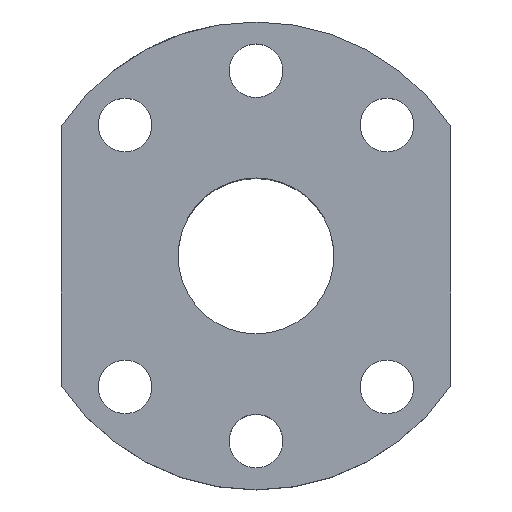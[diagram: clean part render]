
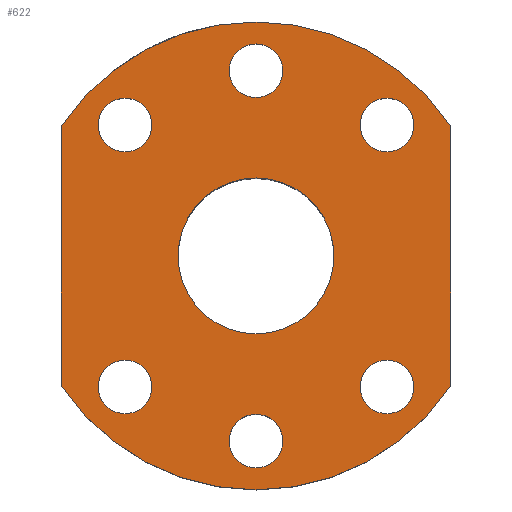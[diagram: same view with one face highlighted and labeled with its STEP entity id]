
A CAD part, top view. The second image highlights one B-rep face of the part: STEP entity #622.
In plain terms, the highlighted planar face has unit normal (0, 0, 1).
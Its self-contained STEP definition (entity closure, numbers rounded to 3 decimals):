
#97=CARTESIAN_POINT('',(-13.435,13.435,10.));
#98=DIRECTION('',(0.,0.,-1.));
#99=DIRECTION('',(1.,0.,0.));
#100=AXIS2_PLACEMENT_3D('',#97,#98,#99);
#102=CARTESIAN_POINT('',(-13.435,13.435,10.));
#103=DIRECTION('',(0.,0.,-1.));
#104=DIRECTION('',(-1.,0.,0.));
#105=AXIS2_PLACEMENT_3D('',#102,#103,#104);
#107=CARTESIAN_POINT('',(0.,19.,10.));
#108=DIRECTION('',(0.,0.,-1.));
#109=DIRECTION('',(1.,0.,0.));
#110=AXIS2_PLACEMENT_3D('',#107,#108,#109);
#112=CARTESIAN_POINT('',(0.,19.,10.));
#113=DIRECTION('',(0.,0.,-1.));
#114=DIRECTION('',(-1.,0.,0.));
#115=AXIS2_PLACEMENT_3D('',#112,#113,#114);
#117=CARTESIAN_POINT('',(13.435,13.435,10.));
#118=DIRECTION('',(0.,0.,-1.));
#119=DIRECTION('',(1.,0.,0.));
#120=AXIS2_PLACEMENT_3D('',#117,#118,#119);
#122=CARTESIAN_POINT('',(13.435,13.435,10.));
#123=DIRECTION('',(0.,0.,-1.));
#124=DIRECTION('',(-1.,0.,0.));
#125=AXIS2_PLACEMENT_3D('',#122,#123,#124);
#127=CARTESIAN_POINT('',(-13.435,-13.435,10.));
#128=DIRECTION('',(0.,0.,-1.));
#129=DIRECTION('',(1.,0.,0.));
#130=AXIS2_PLACEMENT_3D('',#127,#128,#129);
#132=CARTESIAN_POINT('',(-13.435,-13.435,10.));
#133=DIRECTION('',(0.,0.,-1.));
#134=DIRECTION('',(-1.,0.,0.));
#135=AXIS2_PLACEMENT_3D('',#132,#133,#134);
#137=CARTESIAN_POINT('',(0.,-19.,10.));
#138=DIRECTION('',(0.,0.,-1.));
#139=DIRECTION('',(1.,0.,0.));
#140=AXIS2_PLACEMENT_3D('',#137,#138,#139);
#142=CARTESIAN_POINT('',(0.,-19.,10.));
#143=DIRECTION('',(0.,0.,-1.));
#144=DIRECTION('',(-1.,0.,0.));
#145=AXIS2_PLACEMENT_3D('',#142,#143,#144);
#147=CARTESIAN_POINT('',(13.435,-13.435,10.));
#148=DIRECTION('',(0.,0.,-1.));
#149=DIRECTION('',(1.,0.,0.));
#150=AXIS2_PLACEMENT_3D('',#147,#148,#149);
#152=CARTESIAN_POINT('',(13.435,-13.435,10.));
#153=DIRECTION('',(0.,0.,-1.));
#154=DIRECTION('',(-1.,0.,0.));
#155=AXIS2_PLACEMENT_3D('',#152,#153,#154);
#157=DIRECTION('',(0.,-1.,0.));
#158=VECTOR('',#157,26.533);
#159=CARTESIAN_POINT('',(-20.,13.266,10.));
#160=LINE('',#159,#158);
#161=CARTESIAN_POINT('',(0.,0.,10.));
#162=DIRECTION('',(0.,0.,1.));
#163=DIRECTION('',(0.833,0.553,0.));
#164=AXIS2_PLACEMENT_3D('',#161,#162,#163);
#166=DIRECTION('',(0.,1.,0.));
#167=VECTOR('',#166,26.533);
#168=CARTESIAN_POINT('',(20.,-13.266,10.));
#169=LINE('',#168,#167);
#170=CARTESIAN_POINT('',(0.,0.,10.));
#171=DIRECTION('',(0.,0.,1.));
#172=DIRECTION('',(-0.833,-0.553,0.));
#173=AXIS2_PLACEMENT_3D('',#170,#171,#172);
#175=CARTESIAN_POINT('',(0.,0.,10.));
#176=DIRECTION('',(0.,0.,1.));
#177=DIRECTION('',(0.,1.,0.));
#178=AXIS2_PLACEMENT_3D('',#175,#176,#177);
#180=CARTESIAN_POINT('',(0.,0.,10.));
#181=DIRECTION('',(0.,0.,1.));
#182=DIRECTION('',(0.,-1.,0.));
#183=AXIS2_PLACEMENT_3D('',#180,#181,#182);
#427=CARTESIAN_POINT('',(-10.685,13.435,10.));
#428=CARTESIAN_POINT('',(-16.185,13.435,10.));
#429=VERTEX_POINT('',#427);
#430=VERTEX_POINT('',#428);
#431=CARTESIAN_POINT('',(2.75,19.,10.));
#432=CARTESIAN_POINT('',(-2.75,19.,10.));
#433=VERTEX_POINT('',#431);
#434=VERTEX_POINT('',#432);
#435=CARTESIAN_POINT('',(16.185,13.435,10.));
#436=CARTESIAN_POINT('',(10.685,13.435,10.));
#437=VERTEX_POINT('',#435);
#438=VERTEX_POINT('',#436);
#439=CARTESIAN_POINT('',(-10.685,-13.435,10.));
#440=CARTESIAN_POINT('',(-16.185,-13.435,10.));
#441=VERTEX_POINT('',#439);
#442=VERTEX_POINT('',#440);
#443=CARTESIAN_POINT('',(2.75,-19.,10.));
#444=CARTESIAN_POINT('',(-2.75,-19.,10.));
#445=VERTEX_POINT('',#443);
#446=VERTEX_POINT('',#444);
#447=CARTESIAN_POINT('',(16.185,-13.435,10.));
#448=CARTESIAN_POINT('',(10.685,-13.435,10.));
#449=VERTEX_POINT('',#447);
#450=VERTEX_POINT('',#448);
#451=CARTESIAN_POINT('',(-20.,13.266,10.));
#452=CARTESIAN_POINT('',(-20.,-13.266,10.));
#453=VERTEX_POINT('',#451);
#454=VERTEX_POINT('',#452);
#455=CARTESIAN_POINT('',(20.,-13.266,10.));
#456=VERTEX_POINT('',#455);
#457=CARTESIAN_POINT('',(20.,13.266,10.));
#458=VERTEX_POINT('',#457);
#467=CARTESIAN_POINT('',(0.,8.,10.));
#468=CARTESIAN_POINT('',(0.,-8.,10.));
#469=VERTEX_POINT('',#467);
#470=VERTEX_POINT('',#468);
#567=CARTESIAN_POINT('',(0.,0.,10.));
#568=DIRECTION('',(0.,0.,1.));
#569=DIRECTION('',(1.,0.,0.));
#570=AXIS2_PLACEMENT_3D('',#567,#568,#569);
#571=PLANE('',#570);
#573=ORIENTED_EDGE('',*,*,#572,.F.);
#575=ORIENTED_EDGE('',*,*,#574,.F.);
#577=ORIENTED_EDGE('',*,*,#576,.F.);
#579=ORIENTED_EDGE('',*,*,#578,.F.);
#580=EDGE_LOOP('',(#573,#575,#577,#579));
#581=FACE_OUTER_BOUND('',#580,.F.);
#583=ORIENTED_EDGE('',*,*,#582,.F.);
#585=ORIENTED_EDGE('',*,*,#584,.F.);
#586=EDGE_LOOP('',(#583,#585));
#587=FACE_BOUND('',#586,.F.);
#589=ORIENTED_EDGE('',*,*,#588,.F.);
#591=ORIENTED_EDGE('',*,*,#590,.F.);
#592=EDGE_LOOP('',(#589,#591));
#593=FACE_BOUND('',#592,.F.);
#595=ORIENTED_EDGE('',*,*,#594,.F.);
#597=ORIENTED_EDGE('',*,*,#596,.F.);
#598=EDGE_LOOP('',(#595,#597));
#599=FACE_BOUND('',#598,.F.);
#601=ORIENTED_EDGE('',*,*,#600,.F.);
#603=ORIENTED_EDGE('',*,*,#602,.F.);
#604=EDGE_LOOP('',(#601,#603));
#605=FACE_BOUND('',#604,.F.);
#607=ORIENTED_EDGE('',*,*,#606,.F.);
#609=ORIENTED_EDGE('',*,*,#608,.F.);
#610=EDGE_LOOP('',(#607,#609));
#611=FACE_BOUND('',#610,.F.);
#612=ORIENTED_EDGE('',*,*,#547,.F.);
#613=ORIENTED_EDGE('',*,*,#561,.F.);
#614=EDGE_LOOP('',(#612,#613));
#615=FACE_BOUND('',#614,.F.);
#617=ORIENTED_EDGE('',*,*,#616,.T.);
#619=ORIENTED_EDGE('',*,*,#618,.T.);
#620=EDGE_LOOP('',(#617,#619));
#621=FACE_BOUND('',#620,.F.);
#622=ADVANCED_FACE('',(#581,#587,#593,#599,#605,#611,#615,#621),#571,.T.);
#101=CIRCLE('',#100,2.75);
#106=CIRCLE('',#105,2.75);
#111=CIRCLE('',#110,2.75);
#116=CIRCLE('',#115,2.75);
#121=CIRCLE('',#120,2.75);
#126=CIRCLE('',#125,2.75);
#131=CIRCLE('',#130,2.75);
#136=CIRCLE('',#135,2.75);
#141=CIRCLE('',#140,2.75);
#146=CIRCLE('',#145,2.75);
#151=CIRCLE('',#150,2.75);
#156=CIRCLE('',#155,2.75);
#165=CIRCLE('',#164,24.);
#174=CIRCLE('',#173,24.);
#179=CIRCLE('',#178,8.);
#184=CIRCLE('',#183,8.);
#547=EDGE_CURVE('',#429,#430,#101,.T.);
#561=EDGE_CURVE('',#430,#429,#106,.T.);
#572=EDGE_CURVE('',#453,#454,#160,.T.);
#574=EDGE_CURVE('',#458,#453,#165,.T.);
#576=EDGE_CURVE('',#456,#458,#169,.T.);
#578=EDGE_CURVE('',#454,#456,#174,.T.);
#582=EDGE_CURVE('',#433,#434,#111,.T.);
#584=EDGE_CURVE('',#434,#433,#116,.T.);
#588=EDGE_CURVE('',#437,#438,#121,.T.);
#590=EDGE_CURVE('',#438,#437,#126,.T.);
#594=EDGE_CURVE('',#441,#442,#131,.T.);
#596=EDGE_CURVE('',#442,#441,#136,.T.);
#600=EDGE_CURVE('',#445,#446,#141,.T.);
#602=EDGE_CURVE('',#446,#445,#146,.T.);
#606=EDGE_CURVE('',#449,#450,#151,.T.);
#608=EDGE_CURVE('',#450,#449,#156,.T.);
#616=EDGE_CURVE('',#469,#470,#179,.T.);
#618=EDGE_CURVE('',#470,#469,#184,.T.);
